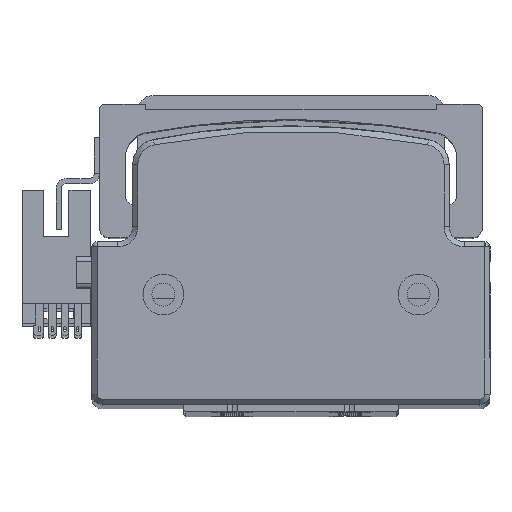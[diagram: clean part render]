
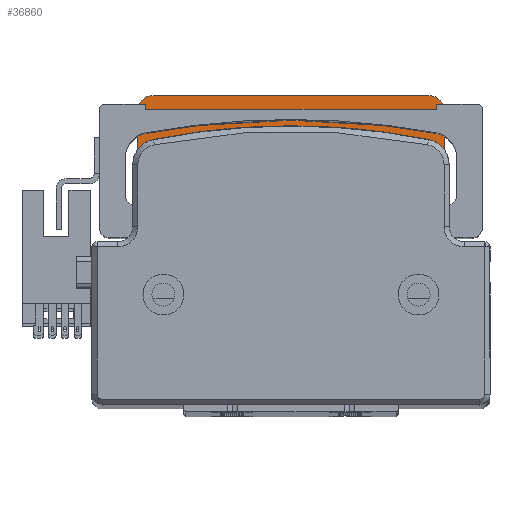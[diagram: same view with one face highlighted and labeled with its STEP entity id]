
A CAD part, top view. The second image highlights one B-rep face of the part: STEP entity #36860.
In plain terms, the highlighted planar face has unit normal (0, 0, 1) as drawn and (0, 0, -1) by its records, which use the part's own axes.
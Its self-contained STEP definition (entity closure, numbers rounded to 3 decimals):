
#824 = AXIS2_PLACEMENT_3D ( 'NONE', #29890, #8244, #33512 ) ;
#1411 = VECTOR ( 'NONE', #14235, 1000. ) ;
#1955 = VERTEX_POINT ( 'NONE', #42683 ) ;
#2268 = LINE ( 'NONE', #14269, #20475 ) ;
#2761 = DIRECTION ( 'NONE',  ( -1., 0., 0. ) ) ;
#3006 = VECTOR ( 'NONE', #34194, 1000. ) ;
#3039 = CARTESIAN_POINT ( 'NONE',  ( -19., 0., 44. ) ) ;
#3237 = EDGE_LOOP ( 'NONE', ( #23282, #46302 ) ) ;
#3518 = EDGE_CURVE ( 'NONE', #44371, #7696, #13254, .T. ) ;
#3545 = ORIENTED_EDGE ( 'NONE', *, *, #3518, .F. ) ;
#4140 = LINE ( 'NONE', #5423, #3006 ) ;
#4257 = CIRCLE ( 'NONE', #44365, 3. ) ;
#4929 = VERTEX_POINT ( 'NONE', #43712 ) ;
#5015 = LINE ( 'NONE', #41022, #23182 ) ;
#5423 = CARTESIAN_POINT ( 'NONE',  ( 19., 30., 44. ) ) ;
#5960 = CARTESIAN_POINT ( 'NONE',  ( -39.764, 17., 44. ) ) ;
#6024 = CARTESIAN_POINT ( 'NONE',  ( 19., 0., 44. ) ) ;
#6200 = DIRECTION ( 'NONE',  ( 0., 0., -1. ) ) ;
#6804 = CARTESIAN_POINT ( 'NONE',  ( -27., 17., 44. ) ) ;
#6860 = EDGE_CURVE ( 'NONE', #38442, #15615, #23483, .T. ) ;
#7696 = VERTEX_POINT ( 'NONE', #19062 ) ;
#8134 = CARTESIAN_POINT ( 'NONE',  ( 26.399, 24.749, 44. ) ) ;
#8244 = DIRECTION ( 'NONE',  ( 0., 0., -1. ) ) ;
#9156 = DIRECTION ( 'NONE',  ( 0., 0., -1. ) ) ;
#9426 = DIRECTION ( 'NONE',  ( 0., 0., -1. ) ) ;
#9471 = AXIS2_PLACEMENT_3D ( 'NONE', #46085, #24487, #2761 ) ;
#9989 = CARTESIAN_POINT ( 'NONE',  ( 27., 30., 44. ) ) ;
#10447 = VERTEX_POINT ( 'NONE', #34963 ) ;
#10556 = CARTESIAN_POINT ( 'NONE',  ( -19., 30., 44. ) ) ;
#10583 = EDGE_CURVE ( 'NONE', #44995, #26764, #43552, .T. ) ;
#11519 = CIRCLE ( 'NONE', #21154, 3. ) ;
#12178 = CARTESIAN_POINT ( 'NONE',  ( -27., 30., 44. ) ) ;
#12799 = EDGE_CURVE ( 'NONE', #10447, #41511, #34086, .T. ) ;
#12848 = CARTESIAN_POINT ( 'NONE',  ( -30., 14., 44. ) ) ;
#13089 = CARTESIAN_POINT ( 'NONE',  ( -27., 14., 44. ) ) ;
#13254 = LINE ( 'NONE', #37997, #32429 ) ;
#14024 = ORIENTED_EDGE ( 'NONE', *, *, #22398, .F. ) ;
#14235 = DIRECTION ( 'NONE',  ( 0., 1., 0. ) ) ;
#14269 = CARTESIAN_POINT ( 'NONE',  ( -30., -30., 44. ) ) ;
#14292 = CIRCLE ( 'NONE', #20176, 1.65 ) ;
#15615 = VERTEX_POINT ( 'NONE', #3039 ) ;
#15704 = DIRECTION ( 'NONE',  ( 0., 0., -1. ) ) ;
#15821 = AXIS2_PLACEMENT_3D ( 'NONE', #27873, #6200, #31503 ) ;
#16718 = DIRECTION ( 'NONE',  ( -1., 0., 0. ) ) ;
#16877 = VERTEX_POINT ( 'NONE', #42922 ) ;
#17298 = EDGE_CURVE ( 'NONE', #41793, #4929, #35063, .T. ) ;
#17372 = FACE_BOUND ( 'NONE', #3237, .T. ) ;
#17744 = EDGE_LOOP ( 'NONE', ( #22006, #24981, #46908, #26694, #27105, #36282, #39501, #23650, #33735, #3545, #29946, #44084 ) ) ;
#17940 = DIRECTION ( 'NONE',  ( 0., 0., -1. ) ) ;
#19062 = CARTESIAN_POINT ( 'NONE',  ( 27., 17., 44. ) ) ;
#20039 = DIRECTION ( 'NONE',  ( 1., 0., 0. ) ) ;
#20176 = AXIS2_PLACEMENT_3D ( 'NONE', #30812, #9156, #34445 ) ;
#20400 = EDGE_CURVE ( 'NONE', #26764, #41793, #4140, .T. ) ;
#20475 = VECTOR ( 'NONE', #43153, 1000. ) ;
#20479 = LINE ( 'NONE', #22111, #38499 ) ;
#20539 = VECTOR ( 'NONE', #34899, 1000. ) ;
#20627 = CARTESIAN_POINT ( 'NONE',  ( 0., 0., 44. ) ) ;
#20848 = DIRECTION ( 'NONE',  ( 0., 0., 1. ) ) ;
#20869 = PLANE ( 'NONE',  #9471 ) ;
#21154 = AXIS2_PLACEMENT_3D ( 'NONE', #42459, #20848, #46065 ) ;
#21423 = CARTESIAN_POINT ( 'NONE',  ( -26.399, 24.749, 44. ) ) ;
#22006 = ORIENTED_EDGE ( 'NONE', *, *, #45889, .T. ) ;
#22111 = CARTESIAN_POINT ( 'NONE',  ( 19., 30., 44. ) ) ;
#22398 = EDGE_CURVE ( 'NONE', #41915, #1955, #45817, .T. ) ;
#23038 = DIRECTION ( 'NONE',  ( 0., 1., 0. ) ) ;
#23182 = VECTOR ( 'NONE', #23038, 1000. ) ;
#23282 = ORIENTED_EDGE ( 'NONE', *, *, #33202, .F. ) ;
#23483 = CIRCLE ( 'NONE', #39236, 19. ) ;
#23650 = ORIENTED_EDGE ( 'NONE', *, *, #41565, .F. ) ;
#23923 = CARTESIAN_POINT ( 'NONE',  ( 19., 17., 44. ) ) ;
#24234 = DIRECTION ( 'NONE',  ( -1., 0., 0. ) ) ;
#24487 = DIRECTION ( 'NONE',  ( 0., 0., -1. ) ) ;
#24981 = ORIENTED_EDGE ( 'NONE', *, *, #41116, .F. ) ;
#26306 = VERTEX_POINT ( 'NONE', #29286 ) ;
#26694 = ORIENTED_EDGE ( 'NONE', *, *, #29902, .F. ) ;
#26764 = VERTEX_POINT ( 'NONE', #12178 ) ;
#26773 = CARTESIAN_POINT ( 'NONE',  ( -30., 27., 44. ) ) ;
#27105 = ORIENTED_EDGE ( 'NONE', *, *, #10583, .T. ) ;
#27873 = CARTESIAN_POINT ( 'NONE',  ( 27., 27., 44. ) ) ;
#29286 = CARTESIAN_POINT ( 'NONE',  ( 30., 14., 44. ) ) ;
#29508 = EDGE_CURVE ( 'NONE', #1955, #41915, #33459, .T. ) ;
#29871 = VERTEX_POINT ( 'NONE', #6804 ) ;
#29890 = CARTESIAN_POINT ( 'NONE',  ( -24.749, 24.749, 44. ) ) ;
#29902 = EDGE_CURVE ( 'NONE', #44995, #33218, #2268, .T. ) ;
#29946 = ORIENTED_EDGE ( 'NONE', *, *, #33552, .T. ) ;
#30812 = CARTESIAN_POINT ( 'NONE',  ( 24.749, 24.749, 44. ) ) ;
#31065 = CARTESIAN_POINT ( 'NONE',  ( 24.749, 24.749, 44. ) ) ;
#31237 = LINE ( 'NONE', #5960, #20539 ) ;
#31503 = DIRECTION ( 'NONE',  ( 1., 0., 0. ) ) ;
#32429 = VECTOR ( 'NONE', #20039, 1000. ) ;
#32524 = AXIS2_PLACEMENT_3D ( 'NONE', #31065, #9426, #34718 ) ;
#33202 = EDGE_CURVE ( 'NONE', #41511, #10447, #14292, .T. ) ;
#33218 = VERTEX_POINT ( 'NONE', #12848 ) ;
#33459 = CIRCLE ( 'NONE', #35699, 1.65 ) ;
#33512 = DIRECTION ( 'NONE',  ( 1., 0., 0. ) ) ;
#33552 = EDGE_CURVE ( 'NONE', #44371, #38442, #20479, .T. ) ;
#33735 = ORIENTED_EDGE ( 'NONE', *, *, #40702, .T. ) ;
#34086 = CIRCLE ( 'NONE', #32524, 1.65 ) ;
#34194 = DIRECTION ( 'NONE',  ( 1., 0., 0. ) ) ;
#34445 = DIRECTION ( 'NONE',  ( 1., 0., 0. ) ) ;
#34718 = DIRECTION ( 'NONE',  ( 1., 0., 0. ) ) ;
#34899 = DIRECTION ( 'NONE',  ( 1., 0., 0. ) ) ;
#34963 = CARTESIAN_POINT ( 'NONE',  ( 23.099, 24.749, 44. ) ) ;
#35063 = CIRCLE ( 'NONE', #15821, 3. ) ;
#35699 = AXIS2_PLACEMENT_3D ( 'NONE', #37335, #15704, #40975 ) ;
#36282 = ORIENTED_EDGE ( 'NONE', *, *, #20400, .T. ) ;
#36467 = DIRECTION ( 'NONE',  ( 0., -1., 0. ) ) ;
#36545 = FACE_BOUND ( 'NONE', #36578, .T. ) ;
#36578 = EDGE_LOOP ( 'NONE', ( #42120, #14024 ) ) ;
#36860 = ADVANCED_FACE ( 'NONE', ( #45023, #36545, #17372 ), #20869, .T. ) ;
#37335 = CARTESIAN_POINT ( 'NONE',  ( -24.749, 24.749, 44. ) ) ;
#37575 = AXIS2_PLACEMENT_3D ( 'NONE', #39530, #17940, #43169 ) ;
#37997 = CARTESIAN_POINT ( 'NONE',  ( -39.764, 17., 44. ) ) ;
#38290 = DIRECTION ( 'NONE',  ( 0., 0., 1. ) ) ;
#38442 = VERTEX_POINT ( 'NONE', #6024 ) ;
#38499 = VECTOR ( 'NONE', #36467, 1000. ) ;
#38806 = LINE ( 'NONE', #10556, #1411 ) ;
#39236 = AXIS2_PLACEMENT_3D ( 'NONE', #20627, #45846, #24234 ) ;
#39501 = ORIENTED_EDGE ( 'NONE', *, *, #17298, .T. ) ;
#39530 = CARTESIAN_POINT ( 'NONE',  ( -27., 27., 44. ) ) ;
#39531 = EDGE_CURVE ( 'NONE', #29871, #33218, #4257, .T. ) ;
#40702 = EDGE_CURVE ( 'NONE', #26306, #7696, #11519, .T. ) ;
#40975 = DIRECTION ( 'NONE',  ( 1., 0., 0. ) ) ;
#41022 = CARTESIAN_POINT ( 'NONE',  ( 30., -30., 44. ) ) ;
#41116 = EDGE_CURVE ( 'NONE', #29871, #16877, #31237, .T. ) ;
#41511 = VERTEX_POINT ( 'NONE', #8134 ) ;
#41565 = EDGE_CURVE ( 'NONE', #26306, #4929, #5015, .T. ) ;
#41793 = VERTEX_POINT ( 'NONE', #9989 ) ;
#41915 = VERTEX_POINT ( 'NONE', #21423 ) ;
#42120 = ORIENTED_EDGE ( 'NONE', *, *, #29508, .F. ) ;
#42459 = CARTESIAN_POINT ( 'NONE',  ( 27., 14., 44. ) ) ;
#42683 = CARTESIAN_POINT ( 'NONE',  ( -23.099, 24.749, 44. ) ) ;
#42922 = CARTESIAN_POINT ( 'NONE',  ( -19., 17., 44. ) ) ;
#43153 = DIRECTION ( 'NONE',  ( 0., -1., 0. ) ) ;
#43169 = DIRECTION ( 'NONE',  ( 1., 0., 0. ) ) ;
#43552 = CIRCLE ( 'NONE', #37575, 3. ) ;
#43712 = CARTESIAN_POINT ( 'NONE',  ( 30., 27., 44. ) ) ;
#44084 = ORIENTED_EDGE ( 'NONE', *, *, #6860, .T. ) ;
#44365 = AXIS2_PLACEMENT_3D ( 'NONE', #13089, #38290, #16718 ) ;
#44371 = VERTEX_POINT ( 'NONE', #23923 ) ;
#44995 = VERTEX_POINT ( 'NONE', #26773 ) ;
#45023 = FACE_OUTER_BOUND ( 'NONE', #17744, .T. ) ;
#45817 = CIRCLE ( 'NONE', #824, 1.65 ) ;
#45846 = DIRECTION ( 'NONE',  ( 0., 0., 1. ) ) ;
#45889 = EDGE_CURVE ( 'NONE', #15615, #16877, #38806, .T. ) ;
#46065 = DIRECTION ( 'NONE',  ( -1., 0., 0. ) ) ;
#46085 = CARTESIAN_POINT ( 'NONE',  ( 19., -30., 44. ) ) ;
#46302 = ORIENTED_EDGE ( 'NONE', *, *, #12799, .F. ) ;
#46908 = ORIENTED_EDGE ( 'NONE', *, *, #39531, .T. ) ;
